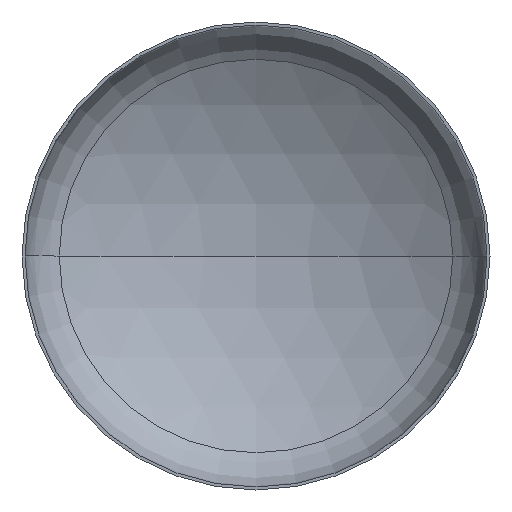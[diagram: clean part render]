
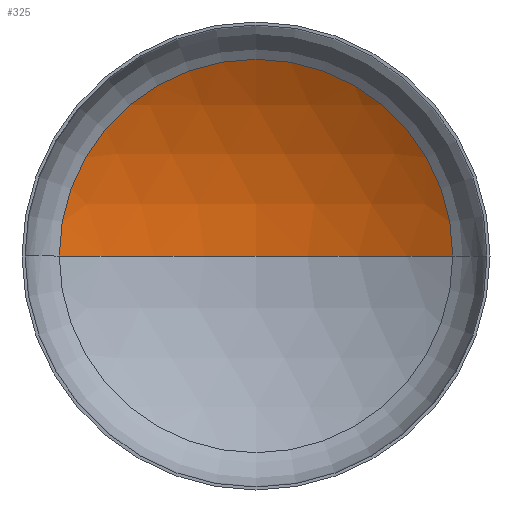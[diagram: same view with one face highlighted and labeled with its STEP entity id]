
A CAD part, front view. The second image highlights one B-rep face of the part: STEP entity #325.
In plain terms, the highlighted spherical face has radius 5600 mm.
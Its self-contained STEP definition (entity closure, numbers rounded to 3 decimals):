
#17 = ORIENTED_EDGE ( 'NONE', *, *, #173, .F. ) ;
#31 = AXIS2_PLACEMENT_3D ( 'NONE', #86, #129, #132 ) ;
#33 = VERTEX_POINT ( 'NONE', #256 ) ;
#86 = CARTESIAN_POINT ( 'NONE',  ( 0., -3705.748, 0. ) ) ;
#92 = VERTEX_POINT ( 'NONE', #280 ) ;
#93 = AXIS2_PLACEMENT_3D ( 'NONE', #237, #311, #334 ) ;
#99 = AXIS2_PLACEMENT_3D ( 'NONE', #216, #209, #206 ) ;
#105 = AXIS2_PLACEMENT_3D ( 'NONE', #298, #296, #295 ) ;
#112 = ORIENTED_EDGE ( 'NONE', *, *, #163, .T. ) ;
#123 = EDGE_LOOP ( 'NONE', ( #17, #137, #112 ) ) ;
#129 = DIRECTION ( 'NONE',  ( 0., 0., -1. ) ) ;
#132 = DIRECTION ( 'NONE',  ( -1., 0., 0. ) ) ;
#137 = ORIENTED_EDGE ( 'NONE', *, *, #169, .T. ) ;
#141 = VERTEX_POINT ( 'NONE', #328 ) ;
#149 = CIRCLE ( 'NONE', #99, 5600. ) ;
#163 = EDGE_CURVE ( 'NONE', #92, #141, #232, .T. ) ;
#169 = EDGE_CURVE ( 'NONE', #33, #92, #149, .T. ) ;
#173 = EDGE_CURVE ( 'NONE', #33, #141, #342, .T. ) ;
#201 = SPHERICAL_SURFACE ( 'NONE', #31, 5600. ) ;
#206 = DIRECTION ( 'NONE',  ( -1., 0., 0. ) ) ;
#209 = DIRECTION ( 'NONE',  ( 0., 0., -1. ) ) ;
#216 = CARTESIAN_POINT ( 'NONE',  ( 0., -3705.748, 0. ) ) ;
#232 = CIRCLE ( 'NONE', #105, 2942.478 ) ;
#237 = CARTESIAN_POINT ( 'NONE',  ( 0., -3705.748, 0. ) ) ;
#256 = CARTESIAN_POINT ( 'NONE',  ( 0., 1894.252, 0. ) ) ;
#280 = CARTESIAN_POINT ( 'NONE',  ( 2942.478, 1058.895, 0. ) ) ;
#295 = DIRECTION ( 'NONE',  ( 1., 0., 0. ) ) ;
#296 = DIRECTION ( 'NONE',  ( 0., -1., 0. ) ) ;
#298 = CARTESIAN_POINT ( 'NONE',  ( 0., 1058.895, 0. ) ) ;
#311 = DIRECTION ( 'NONE',  ( 0., 0., 1. ) ) ;
#325 = ADVANCED_FACE ( 'NONE', ( #364 ), #201, .F. ) ;
#328 = CARTESIAN_POINT ( 'NONE',  ( -2942.478, 1058.895, 0. ) ) ;
#334 = DIRECTION ( 'NONE',  ( 1., 0., 0. ) ) ;
#342 = CIRCLE ( 'NONE', #93, 5600. ) ;
#364 = FACE_OUTER_BOUND ( 'NONE', #123, .T. ) ;
